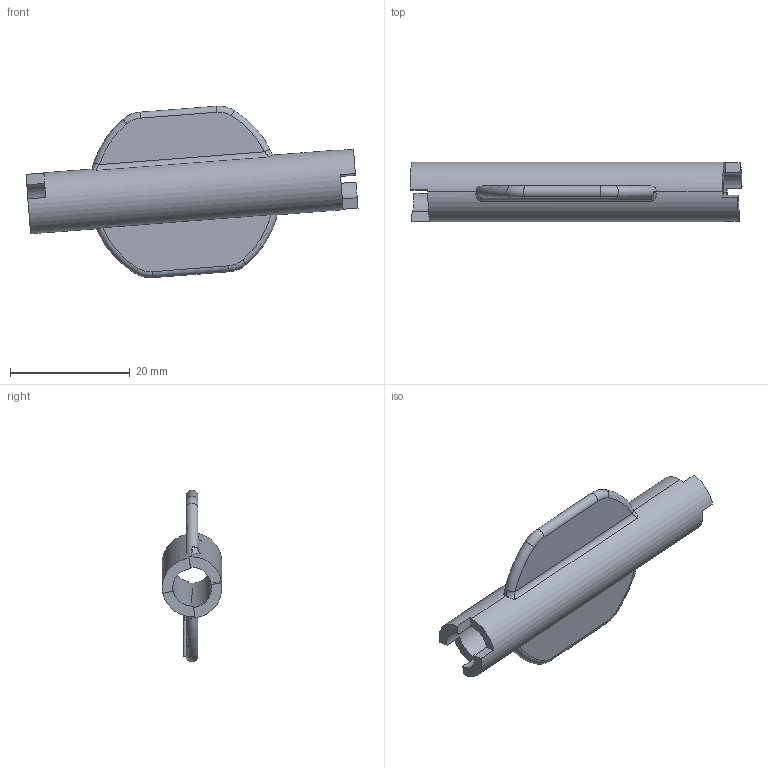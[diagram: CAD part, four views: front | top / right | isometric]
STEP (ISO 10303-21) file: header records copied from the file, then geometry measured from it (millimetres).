
FILE_DESCRIPTION((''),'2;1');
FILE_NAME('0000237113_PRT','2025-11-12T18:33:31',('Wyndorps'),(''),'CREO PARAMETRIC BY PTC INC, 2025010','CREO PARAMETRIC BY PTC INC, 2025010','');
FILE_SCHEMA(('CONFIG_CONTROL_DESIGN'));
Length unit declared in the file: millimetre
Products named in the file (1): 0000237113_PRT
Bounding box: 55.47 x 10 x 28.65 mm (x, y, z)
Volume: 3234.8 mm3; surface area: 3713.4 mm2
Topology: 1 solids, 1 shells, 97 faces, 277 edges, 182 vertices
Faces by surface type: plane 61, cylinder 12, extrusion 12, torus 8, bspline 4
Entity records: 3592 total; most frequent: CARTESIAN_POINT 1072, ORIENTED_EDGE 554, DIRECTION 463, EDGE_CURVE 277, VERTEX_POINT 182, VECTOR 179, LINE 167, AXIS2_PLACEMENT_3D 142
